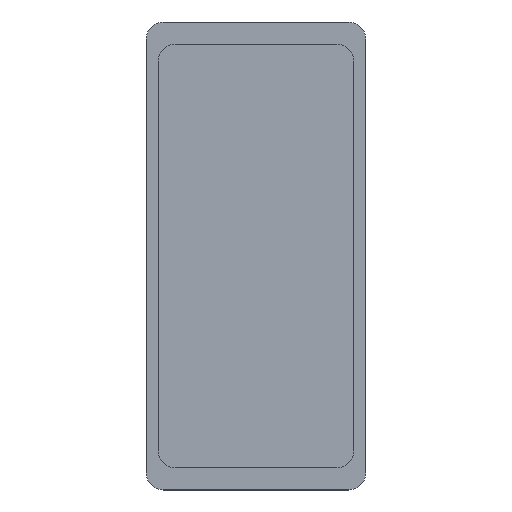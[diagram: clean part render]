
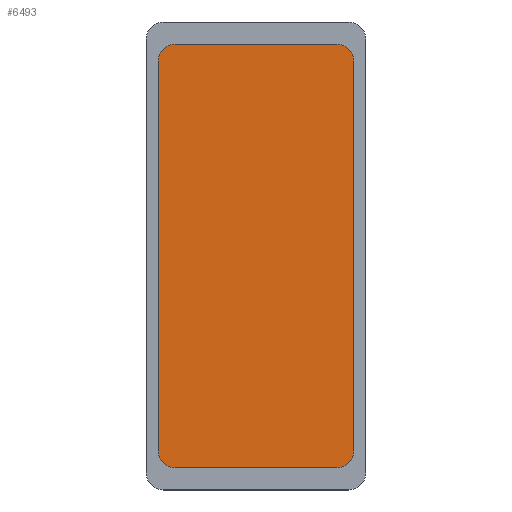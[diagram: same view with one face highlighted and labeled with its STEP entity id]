
A CAD part, top view. The second image highlights one B-rep face of the part: STEP entity #6493.
In plain terms, the highlighted planar face has unit normal (0, 0, 1).
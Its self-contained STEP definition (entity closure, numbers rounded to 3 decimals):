
#5166=DIRECTION('',(0.,-1.,0.));
#5167=VECTOR('',#5166,132.476);
#5168=CARTESIAN_POINT('',(33.298,66.238,3.43));
#5169=LINE('',#5168,#5167);
#5180=CARTESIAN_POINT('',(27.448,-66.238,3.43));
#5181=DIRECTION('',(0.,0.,1.));
#5182=DIRECTION('',(0.,-1.,0.));
#5183=AXIS2_PLACEMENT_3D('',#5180,#5181,#5182);
#5195=DIRECTION('',(-1.,0.,0.));
#5196=VECTOR('',#5195,54.896);
#5197=CARTESIAN_POINT('',(27.448,-72.088,3.43));
#5198=LINE('',#5197,#5196);
#5209=CARTESIAN_POINT('',(-27.448,-66.238,3.43));
#5210=DIRECTION('',(0.,0.,1.));
#5211=DIRECTION('',(-1.,0.,0.));
#5212=AXIS2_PLACEMENT_3D('',#5209,#5210,#5211);
#5224=DIRECTION('',(0.,1.,0.));
#5225=VECTOR('',#5224,132.476);
#5226=CARTESIAN_POINT('',(-33.298,-66.238,3.43));
#5227=LINE('',#5226,#5225);
#5238=CARTESIAN_POINT('',(-27.448,66.238,3.43));
#5239=DIRECTION('',(0.,0.,1.));
#5240=DIRECTION('',(0.,1.,0.));
#5241=AXIS2_PLACEMENT_3D('',#5238,#5239,#5240);
#5253=DIRECTION('',(1.,0.,0.));
#5254=VECTOR('',#5253,54.896);
#5255=CARTESIAN_POINT('',(-27.448,72.088,3.43));
#5256=LINE('',#5255,#5254);
#5267=CARTESIAN_POINT('',(27.448,66.238,3.43));
#5268=DIRECTION('',(0.,0.,1.));
#5269=DIRECTION('',(1.,0.,0.));
#5270=AXIS2_PLACEMENT_3D('',#5267,#5268,#5269);
#6088=CARTESIAN_POINT('',(33.298,66.238,3.43));
#6089=CARTESIAN_POINT('',(33.298,-66.238,3.43));
#6090=VERTEX_POINT('',#6088);
#6091=VERTEX_POINT('',#6089);
#6092=CARTESIAN_POINT('',(27.448,-72.088,3.43));
#6093=VERTEX_POINT('',#6092);
#6094=CARTESIAN_POINT('',(-27.448,-72.088,3.43));
#6095=VERTEX_POINT('',#6094);
#6096=CARTESIAN_POINT('',(-33.298,-66.238,3.43));
#6097=VERTEX_POINT('',#6096);
#6098=CARTESIAN_POINT('',(-33.298,66.238,3.43));
#6099=VERTEX_POINT('',#6098);
#6100=CARTESIAN_POINT('',(-27.448,72.088,3.43));
#6101=VERTEX_POINT('',#6100);
#6102=CARTESIAN_POINT('',(27.448,72.088,3.43));
#6103=VERTEX_POINT('',#6102);
#6471=CARTESIAN_POINT('',(0.,0.,3.43));
#6472=DIRECTION('',(0.,0.,-1.));
#6473=DIRECTION('',(-1.,0.,0.));
#6474=AXIS2_PLACEMENT_3D('',#6471,#6472,#6473);
#6475=PLANE('',#6474);
#6476=ORIENTED_EDGE('',*,*,#6461,.T.);
#6478=ORIENTED_EDGE('',*,*,#6477,.F.);
#6480=ORIENTED_EDGE('',*,*,#6479,.T.);
#6482=ORIENTED_EDGE('',*,*,#6481,.F.);
#6484=ORIENTED_EDGE('',*,*,#6483,.T.);
#6486=ORIENTED_EDGE('',*,*,#6485,.F.);
#6488=ORIENTED_EDGE('',*,*,#6487,.T.);
#6490=ORIENTED_EDGE('',*,*,#6489,.F.);
#6491=EDGE_LOOP('',(#6476,#6478,#6480,#6482,#6484,#6486,#6488,#6490));
#6492=FACE_OUTER_BOUND('',#6491,.F.);
#6493=ADVANCED_FACE('',(#6492),#6475,.F.);
#5184=CIRCLE('',#5183,5.85);
#5213=CIRCLE('',#5212,5.85);
#5242=CIRCLE('',#5241,5.85);
#5271=CIRCLE('',#5270,5.85);
#6461=EDGE_CURVE('',#6090,#6091,#5169,.T.);
#6477=EDGE_CURVE('',#6093,#6091,#5184,.T.);
#6479=EDGE_CURVE('',#6093,#6095,#5198,.T.);
#6481=EDGE_CURVE('',#6097,#6095,#5213,.T.);
#6483=EDGE_CURVE('',#6097,#6099,#5227,.T.);
#6485=EDGE_CURVE('',#6101,#6099,#5242,.T.);
#6487=EDGE_CURVE('',#6101,#6103,#5256,.T.);
#6489=EDGE_CURVE('',#6090,#6103,#5271,.T.);
